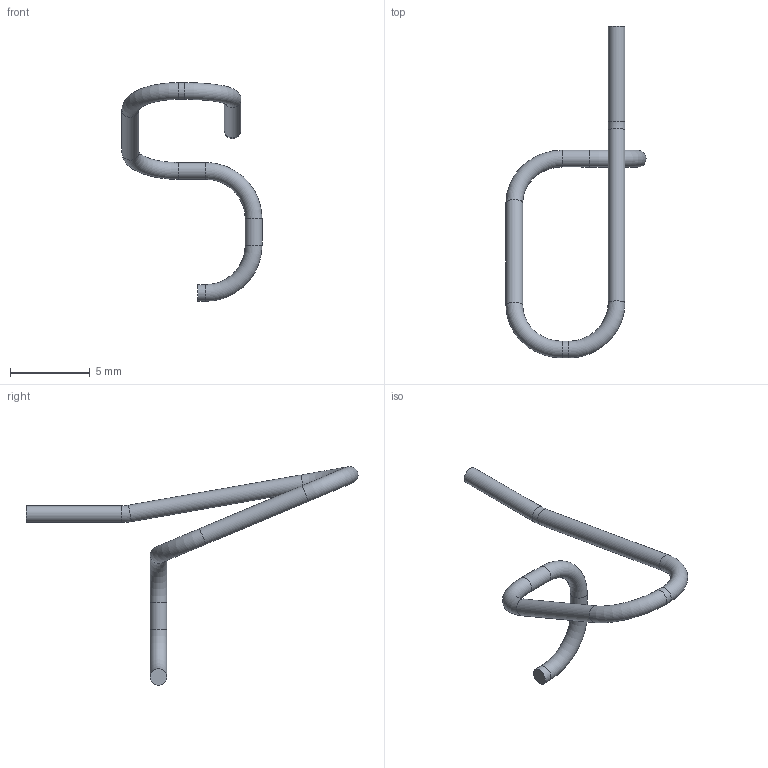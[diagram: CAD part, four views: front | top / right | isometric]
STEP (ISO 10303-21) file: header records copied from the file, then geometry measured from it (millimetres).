
FILE_DESCRIPTION(('Open CASCADE Model'),'2;1');
FILE_NAME('Open CASCADE Shape Model','2026-09-15T14:46:20',('Author'),( 'Open CASCADE'),'Open CASCADE STEP processor 7.7','Open CASCADE 7.7' ,'Unknown');
FILE_SCHEMA(('AUTOMOTIVE_DESIGN { 1 0 10303 214 1 1 1 1 }'));
Length unit declared in the file: millimetre
Products named in the file (1): J9_PIN_3_CONTROL_LEAD_OD1p05_R3
Bounding box: 8.76 x 20.77 x 13.69 mm (x, y, z)
Volume: 45.2 mm3; surface area: 174 mm2
Topology: 1 solids, 1 shells, 15 faces, 27 edges, 14 vertices
Faces by surface type: cylinder 7, torus 6, plane 2
Full cylindrical faces by diameter (mm): 1.05 x7
Entity records: 701 total; most frequent: CARTESIAN_POINT 136, DIRECTION 108, ORIENTED_EDGE 54, PCURVE 54, DEFINITIONAL_REPRESENTATION 54, AXIS2_PLACEMENT_3D 36, LINE 34, VECTOR 34
